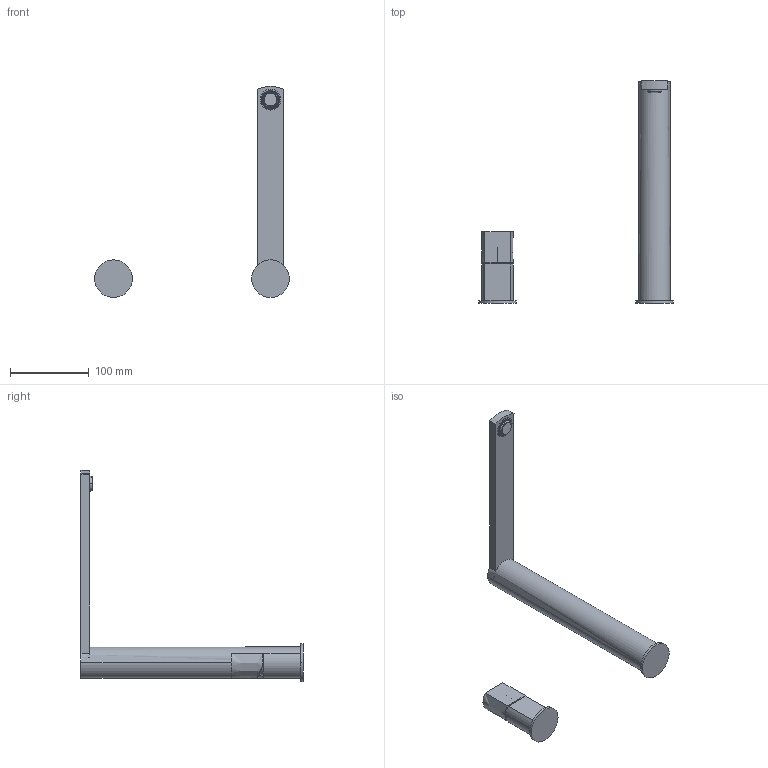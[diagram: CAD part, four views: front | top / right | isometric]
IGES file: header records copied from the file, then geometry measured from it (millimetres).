
Start section:  PTC IGES file: 89058b21_sw0001.igs
Global section: file name: 89058b21_sw0001.igs; native system: Creo Parametric by PTC Inc.; preprocessor: 2018100; author: carloff; organization: Unknown; date: 20200618.164751; units: millimetre
Bounding box: 247.91 x 283 x 268.85 mm (x, y, z)
Surface area: 134787.2 mm2 (no closed solid volume)
Topology: 0 solids, 0 shells, 3058 faces, 15990 edges, 15988 vertices
Faces by surface type: bspline 2504, revolution 554
